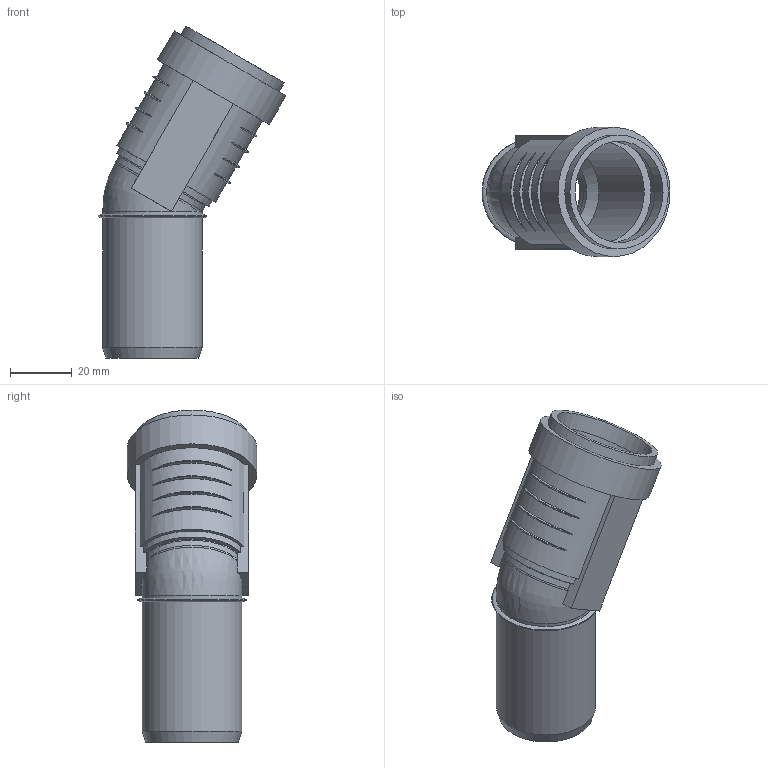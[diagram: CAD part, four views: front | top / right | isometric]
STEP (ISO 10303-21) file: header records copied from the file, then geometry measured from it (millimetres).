
FILE_DESCRIPTION(/* description */ (''),/* implementation_level */ '2;1');
FILE_NAME(/* name */ 'Z:\Geberit\Export\NewStep\390021.stp',/* time_stamp */ '2014-04-02T08:08:05+02:00',/* author */ ('ML'),/* organization */ (''),/* preprocessor_version */ 'ST-DEVELOPER v15.2',/* originating_system */ 'Autodesk Inventor 2014',/* authorisation */ '');
FILE_SCHEMA (('AUTOMOTIVE_DESIGN { 1 0 10303 214 3 1 1 }'));
Length unit declared in the file: millimetre
Products named in the file (3): 861577; 861632; 390021
Bounding box: 60.8 x 41.8 x 107.38 mm (x, y, z)
Volume: 24956 mm3; surface area: 25364.5 mm2
Topology: 2 solids, 2 shells, 68 faces, 162 edges, 109 vertices
Faces by surface type: torus 28, plane 19, cylinder 18, cone 2, bspline 1
Full cylindrical faces by diameter (mm): 28.15 x3, 32.15 x4, 32.8 x2, 36.8 x1, 37.8 x1, 41.8 x1
Entity records: 2662 total; most frequent: CARTESIAN_POINT 1086, DIRECTION 290, ORIENTED_EDGE 278, EDGE_CURVE 139, AXIS2_PLACEMENT_3D 127, VERTEX_POINT 106, EDGE_LOOP 103, STYLED_ITEM 70
